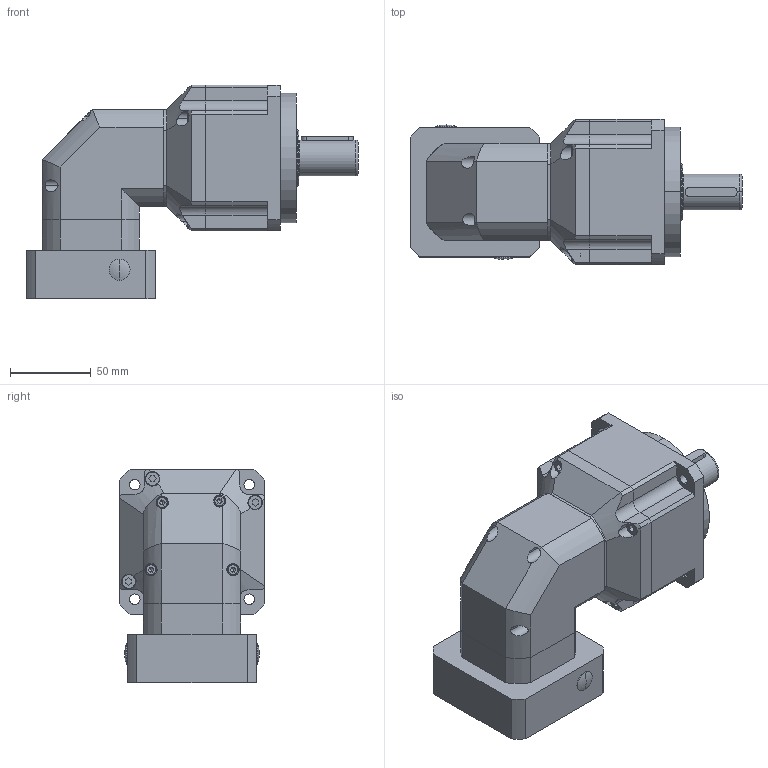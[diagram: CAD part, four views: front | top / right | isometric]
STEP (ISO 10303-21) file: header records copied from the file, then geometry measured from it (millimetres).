
FILE_DESCRIPTION (( 'STEP AP203' ), '1' );
FILE_NAME ('PHFZ090-L2-19-70-90-M6-TÐÍ.STEP', '2020-06-27T06:25:26', ( 'ylmfeng' ), ( 'ylmfeng.com' ), 'SwSTEP 2.0', 'SolidWorks 2014', '' );
FILE_SCHEMA (( 'CONFIG_CONTROL_DESIGN' ));
Length unit declared in the file: millimetre
Products named in the file (1): PHFZ090-L2-19-70-90-M6-T倰
Bounding box: 205 x 90 x 132 mm (x, y, z)
Volume: 967712.7 mm3; surface area: 156488 mm2
Topology: 25 solids, 26 shells, 714 faces, 1761 edges, 1108 vertices
Faces by surface type: plane 320, cylinder 230, cone 88, torus 48, bspline 28
Entity records: 22692 total; most frequent: CARTESIAN_POINT 5644, DIRECTION 3624, ORIENTED_EDGE 3478, EDGE_CURVE 1739, AXIS2_PLACEMENT_3D 1373, VERTEX_POINT 1108, LINE 878, VECTOR 878
